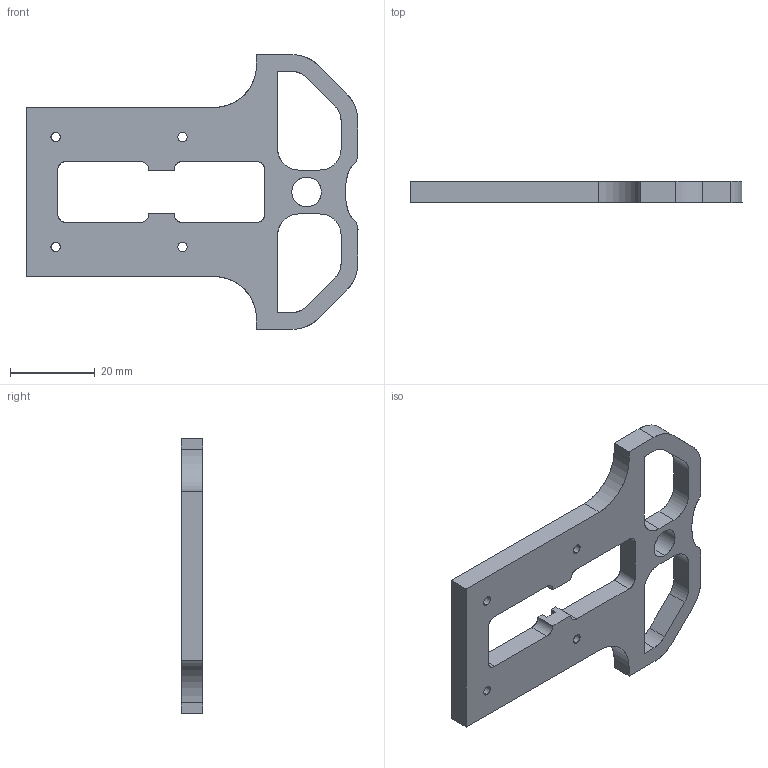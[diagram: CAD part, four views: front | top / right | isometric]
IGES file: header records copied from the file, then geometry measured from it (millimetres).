
Start section: SolidWorks IGES file using analytic representation for surfaces
Global section: file name: C:\Users\AndreBernot\Downloads\K-RACER-L_3D_SW\K-RACER-L_3D_SW\Chappe avant RACER-L.IGS; native system: SolidWorks 2015; preprocessor: SolidWorks 2015; author: AndreBernot; date: 170922.151025; units: millimetre
Bounding box: 78.5 x 5 x 65 mm (x, y, z)
Surface area: 7506.8 mm2 (no closed solid volume)
Topology: 0 solids, 0 shells, 78 faces, 1042 edges, 1042 vertices
Faces by surface type: bspline 44, revolution 34
